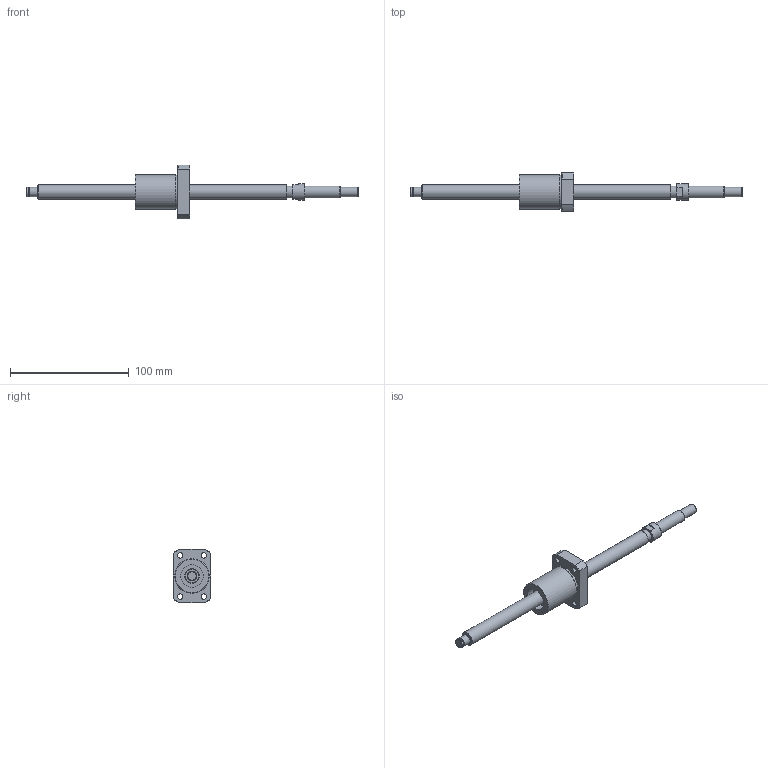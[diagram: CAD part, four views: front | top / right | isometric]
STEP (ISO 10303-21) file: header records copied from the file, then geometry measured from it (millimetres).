
FILE_DESCRIPTION(/* description */ ('STEP AP203'),/* implementation_level */ '2;1');
FILE_NAME(/* name */ 'BNK1208-2.6RRG2+280LC7Y(1280)',/* time_stamp */ '2024-07-09T09:11:07+02:00',/* author */ ('License CC BY-ND 4.0'),/* organization */ ('CADENAS'),/* preprocessor_version */ 'ST-DEVELOPER v19.3',/* originating_system */ 'PARTsolutions',/* authorisation */ ' ');
FILE_SCHEMA (('CONFIG_CONTROL_DESIGN'));
Length unit declared in the file: millimetre
Products named in the file (3): BNK1208-2.6RRG2+280LC7Y(1280); BNK 1208-2.6RRG2+280LC7Y Shaft; BNK 1208-2.6RRG2+280LC7YRR0 Nut
Assembly tree (2 placements, depth 2):
  BNK1208-2.6RRG2+280LC7Y(1280)
    BNK 1208-2.6RRG2+280LC7Y Shaft
    BNK 1208-2.6RRG2+280LC7YRR0 Nut
Bounding box: 280 x 32 x 45 mm (x, y, z)
Volume: 58154.1 mm3; surface area: 20614.6 mm2
Topology: 2 solids, 2 shells, 76 faces, 158 edges, 101 vertices
Faces by surface type: plane 29, cylinder 29, cone 16, torus 2
Full cylindrical faces by diameter (mm): 3 x3, 4.5 x4, 4.917 x1, 7.6 x1, 8 x7, 10 x2, 12 x2, 14 x1, 19 x2, 28.4 x1, 29 x1
Entity records: 1972 total; most frequent: CARTESIAN_POINT 385, DIRECTION 332, ORIENTED_EDGE 236, AXIS2_PLACEMENT_3D 154, FACE_BOUND 140, EDGE_LOOP 139, EDGE_CURVE 118, VERTEX_POINT 98
